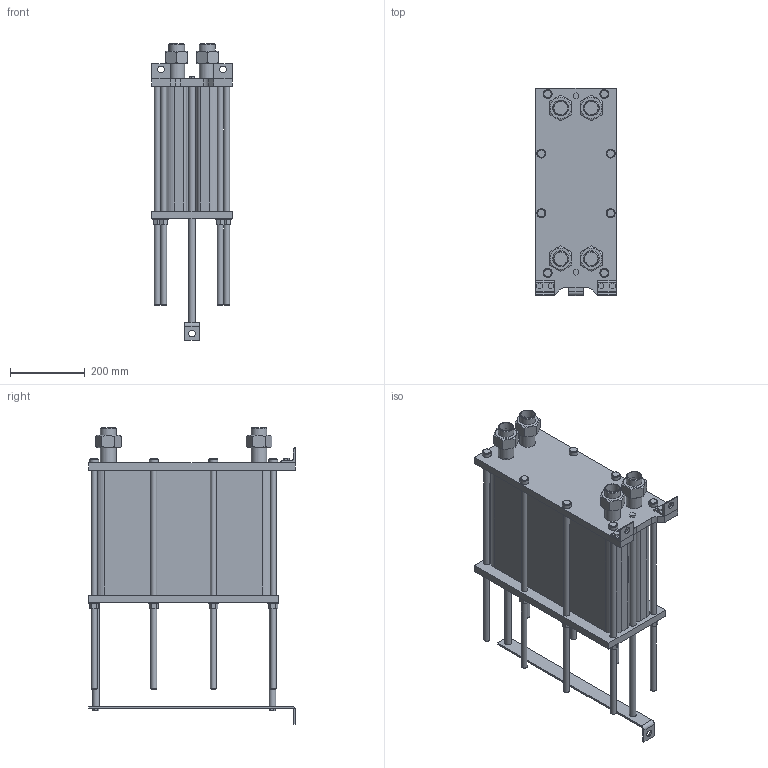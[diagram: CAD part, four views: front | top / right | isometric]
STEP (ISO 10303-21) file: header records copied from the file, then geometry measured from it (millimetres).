
FILE_DESCRIPTION(/* description */ (''),/* implementation_level */ '2;1');
FILE_NAME(/* name */ 'C:\Users\zhuro\Desktop\ENCO\TO\ЭН-004\ЭН-0,5-004-108-1.stp',/* time_stamp */ '2022-06-06T10:53:15+03:00',/* author */ ('zhuro'),/* organization */ (''),/* preprocessor_version */ 'ST-DEVELOPER v18.1',/* originating_system */ 'Autodesk Inventor 2022',/* authorisation */ '');
FILE_SCHEMA (('AUTOMOTIVE_DESIGN { 1 0 10303 214 3 1 1 }'));
Length unit declared in the file: millimetre
Products named in the file (1): ЭН-0,5-004-108-1
Bounding box: 216 x 555 x 795.4 mm (x, y, z)
Volume: 30891337.7 mm3; surface area: 1683559.1 mm2
Topology: 40 solids, 40 shells, 403 faces, 865 edges, 574 vertices
Faces by surface type: plane 272, cylinder 103, cone 28
Full cylindrical faces by diameter (mm): 10 x4, 16 x16, 18 x29, 20 x2, 24 x8, 28 x8, 36.3 x5, 42.3 x9
Entity records: 11137 total; most frequent: CARTESIAN_POINT 1939, DIRECTION 1879, ORIENTED_EDGE 1730, EDGE_CURVE 865, AXIS2_PLACEMENT_3D 658, VERTEX_POINT 574, LINE 563, VECTOR 563
